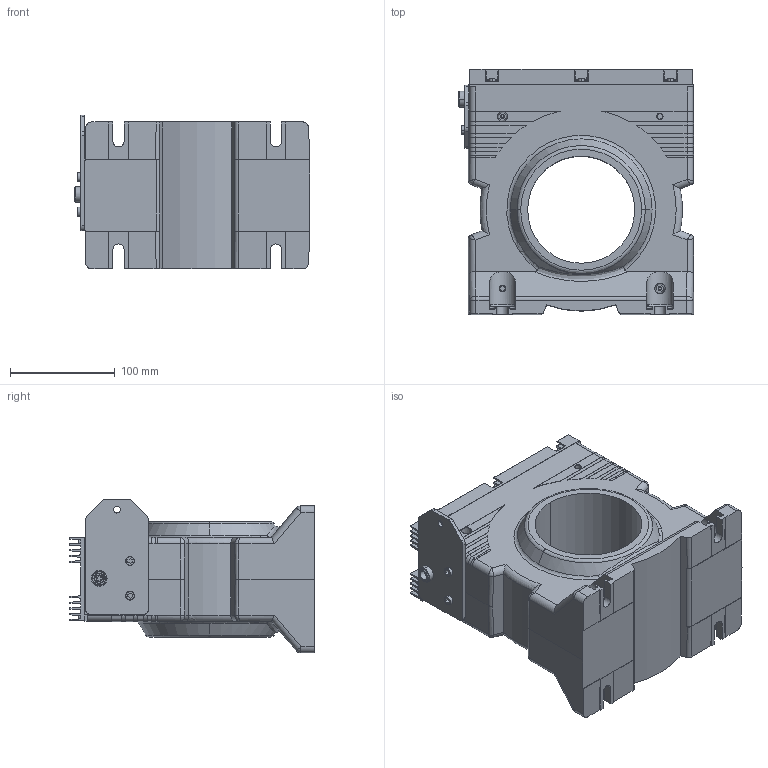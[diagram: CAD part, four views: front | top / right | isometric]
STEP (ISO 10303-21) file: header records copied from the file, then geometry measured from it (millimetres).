
FILE_DESCRIPTION(('CoCreate Modeling STEP Export'),'2;1');
FILE_NAME('LT_4000-S_SP35_black-box_SCy_141111.stp','2011-11-14T14:04:46',(''),(''),'CoCreate Modeling STEP processor for AP214 (Solid Model)','CoCreate Modeling 17.0B 09-Oct-2010 (C) Parametric Technology GmbH','');
FILE_SCHEMA(('AUTOMOTIVE_DESIGN { 1 0 10303 214 1 1 1 1 }'));
Length unit declared in the file: millimetre
Products named in the file (2): BLACKBOX
Assembly tree (1 placements, depth 2):
  BLACKBOX
    BLACKBOX
Bounding box: 224.91 x 234 x 146.5 mm (x, y, z)
Surface area: 280579.3 mm2 (no closed solid volume)
Topology: 0 solids, 22 shells, 1101 faces, 2848 edges, 1834 vertices
Faces by surface type: plane 545, cylinder 392, bspline 68, cone 40, torus 38, extrusion 18
Entity records: 40506 total; most frequent: CARTESIAN_POINT 14051, ORIENTED_EDGE 5672, DIRECTION 4708, EDGE_CURVE 2836, VERTEX_POINT 1834, AXIS2_PLACEMENT_3D 1589, VECTOR 1530, LINE 1512
